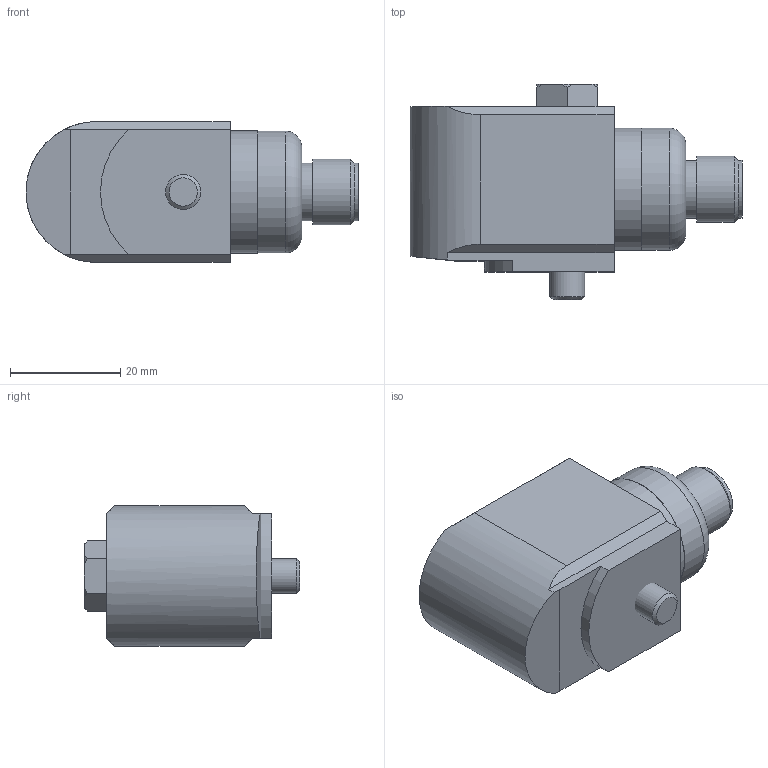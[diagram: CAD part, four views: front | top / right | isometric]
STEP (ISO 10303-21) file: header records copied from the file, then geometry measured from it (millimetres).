
FILE_DESCRIPTION(/* description */ (''),/* implementation_level */ '2;1');
FILE_NAME(/* name */ 'Z:\Engineering\Drawings\3D Library\Assemblies\Website\Premium Side\HS-150 Side M12\HS-150SXXX5402.stp',/* time_stamp */ '2023-03-12T13:12:45+00:00',/* author */ ('Ricardo.Peneda'),/* organization */ (''),/* preprocessor_version */ 'ST-DEVELOPER v18.1',/* originating_system */ 'Autodesk Inventor 2021',/* authorisation */ '');
FILE_SCHEMA (('AUTOMOTIVE_DESIGN { 1 0 10303 214 3 1 1 }'));
Length unit declared in the file: inch
Products named in the file (1): HS-150SXXX5402_Shrinkwrap_1
Bounding box: 60.19 x 39 x 25.5 mm (x, y, z)
Volume: 25712.7 mm3; surface area: 10761.3 mm2
Topology: 4 solids, 4 shells, 70 faces, 174 edges, 126 vertices
Faces by surface type: plane 39, cylinder 20, cone 10, torus 1
Full cylindrical faces by diameter (mm): 4.5 x1, 5.359 x1, 6.35 x1, 9.4 x2, 10 x1, 10.496 x1, 10.5 x1, 12 x1, 13 x1, 14.95 x1, 15.34 x1, 15.35 x1, 18 x1, 19.95 x1, 20 x1, 22.2 x2
Entity records: 2280 total; most frequent: DIRECTION 395, CARTESIAN_POINT 395, ORIENTED_EDGE 348, EDGE_CURVE 174, AXIS2_PLACEMENT_3D 162, VERTEX_POINT 126, EDGE_LOOP 86, CIRCLE 86
